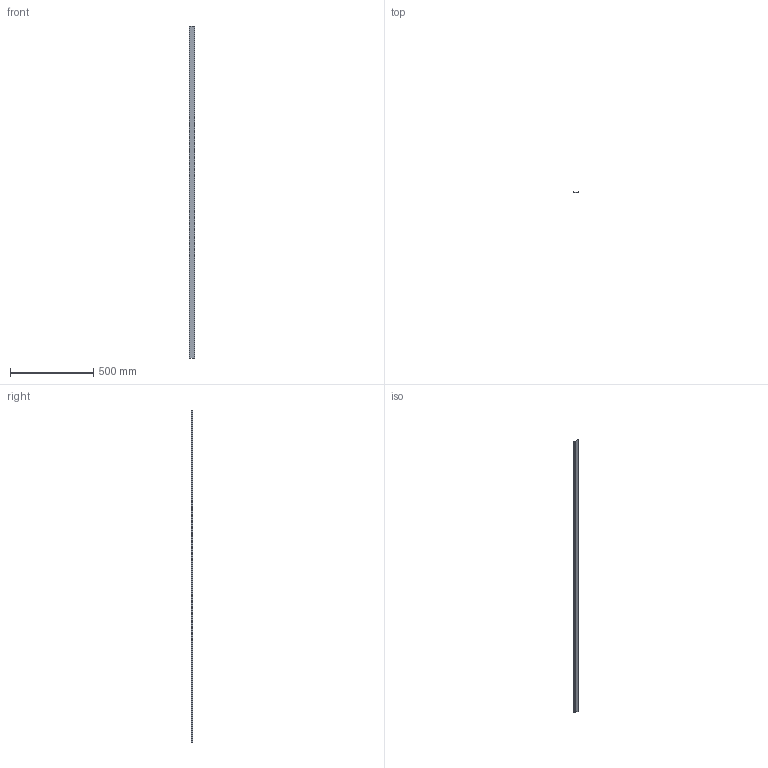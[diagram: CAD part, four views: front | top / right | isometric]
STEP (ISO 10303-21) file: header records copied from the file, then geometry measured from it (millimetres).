
FILE_DESCRIPTION((''),'1');
FILE_NAME('1','2001-04-18T',('jlue'),(''),'PRO/ENGINEER BY PARAMETRIC TECHNOLOGY CORPORATION, 9846','PRO/ENGINEER BY PARAMETRIC TECHNOLOGY CORPORATION, 9846','');
FILE_SCHEMA(('CONFIG_CONTROL_DESIGN'));
Length unit declared in the file: inch
Products named in the file (1): 1
Bounding box: 35.05 x 7.49 x 2000 mm (x, y, z)
Surface area: 190612.7 mm2 (no closed solid volume)
Topology: 0 solids, 0 shells, 22 faces, 120 edges, 120 vertices
Faces by surface type: plane 14, cylinder 8
Entity records: 636 total; most frequent: DIRECTION 120, COMPOSITE_CURVE_SEGMENT 120, CARTESIAN_POINT 82, TRIMMED_CURVE 60, VECTOR 44, LINE 44, AXIS2_PLACEMENT_3D 38, CURVE_BOUNDED_SURFACE 22
